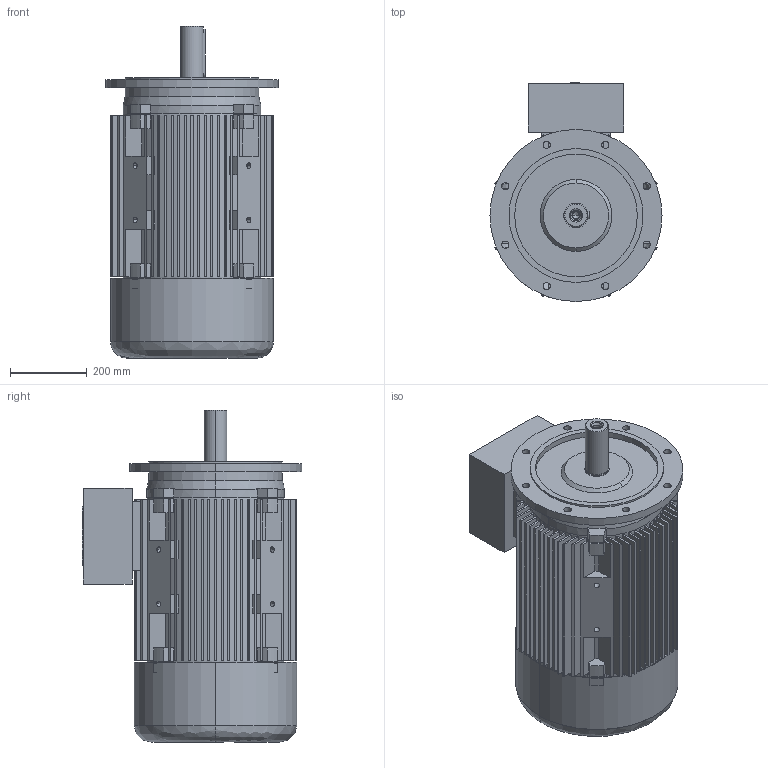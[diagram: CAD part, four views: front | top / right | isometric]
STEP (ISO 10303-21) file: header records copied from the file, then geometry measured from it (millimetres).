
FILE_DESCRIPTION (( 'STEP AP203' ), '1' );
FILE_NAME ('20.18373_B 7AZ 225S & M - 4, -6 B5 STANDK.STEP', '2018-04-03T06:51:38', ( '' ), ( '' ), 'SwSTEP 2.0', 'SolidWorks 2017', '' );
FILE_SCHEMA (( 'CONFIG_CONTROL_DESIGN' ));
Length unit declared in the file: millimetre
Products named in the file (1): 20.18373_B  7AZ 225S & M - 4, -6 B5 STANDK
Bounding box: 450 x 573 x 868 mm (x, y, z)
Volume: 34461810.9 mm3; surface area: 5197743.4 mm2
Topology: 14 solids, 14 shells, 809 faces, 2149 edges, 1409 vertices
Faces by surface type: plane 628, cylinder 130, cone 38, bspline 13
Entity records: 25749 total; most frequent: CARTESIAN_POINT 5259, ORIENTED_EDGE 4262, DIRECTION 4191, EDGE_CURVE 2131, VECTOR 1581, LINE 1581, VERTEX_POINT 1409, AXIS2_PLACEMENT_3D 1305
